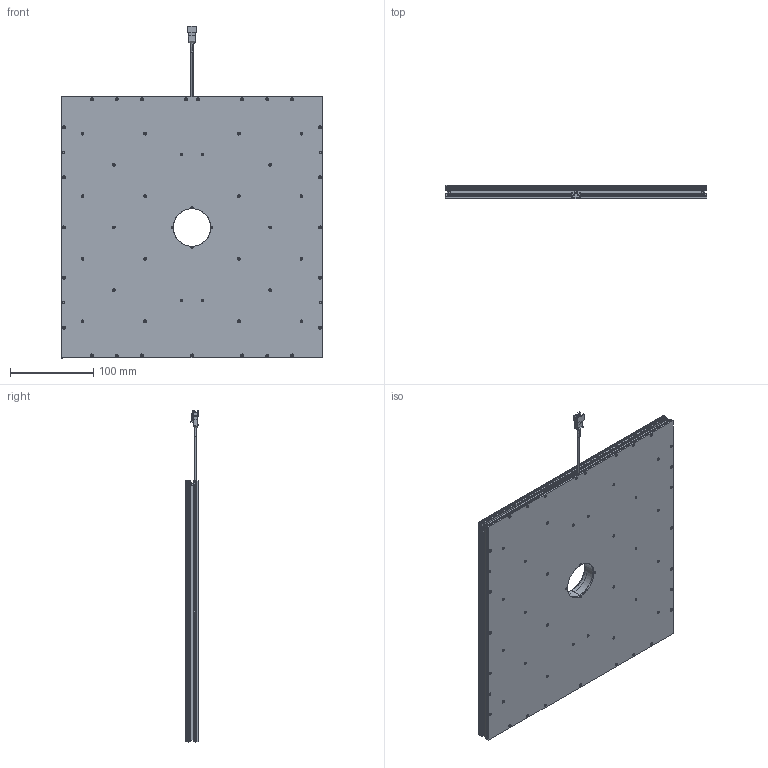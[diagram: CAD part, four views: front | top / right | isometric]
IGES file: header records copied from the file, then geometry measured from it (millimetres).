
Start section: SolidWorks IGES file using analytic representation for surfaces
Global section: file name: C:\Users\user\Downloads\TEMP_STEP\VDFHP-300300_Drawing_L1201A-A00100.IGS; native system: SolidWorks 2018; preprocessor: SolidWorks 2018; author: user; date: 231221.091930; units: millimetre
Bounding box: 313 x 16.55 x 398.11 mm (x, y, z)
Surface area: 343938.9 mm2 (no closed solid volume)
Topology: 0 solids, 0 shells, 801 faces, 10287 edges, 10287 vertices
Faces by surface type: bspline 438, revolution 363
